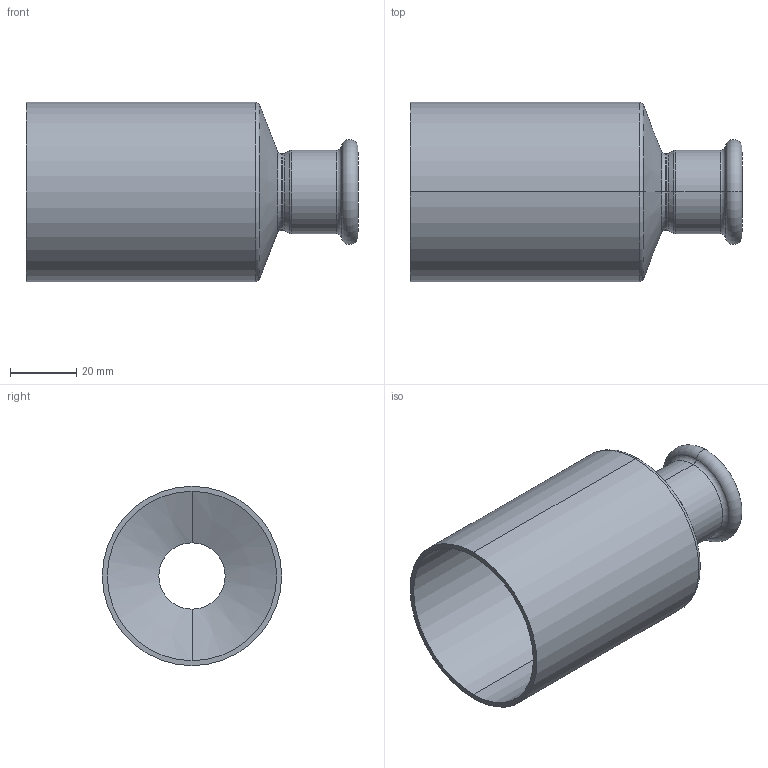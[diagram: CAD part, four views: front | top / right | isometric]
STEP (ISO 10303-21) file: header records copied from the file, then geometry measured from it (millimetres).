
FILE_DESCRIPTION (( 'STEP AP214' ), '1' );
FILE_NAME ('R54220B.STEP', '2025-08-18T00:12:26', ( '' ), ( '' ), 'SwSTEP 2.0', 'SolidWorks 2020', '' );
FILE_SCHEMA (( 'AUTOMOTIVE_DESIGN' ));
Length unit declared in the file: millimetre
Products named in the file (1): R54220B
Bounding box: 100 x 54 x 54 mm (x, y, z)
Volume: 23745 mm3; surface area: 31519.1 mm2
Topology: 1 solids, 1 shells, 43 faces, 86 edges, 46 vertices
Faces by surface type: torus 16, cylinder 14, cone 10, plane 3
Entity records: 1192 total; most frequent: DIRECTION 236, CARTESIAN_POINT 176, ORIENTED_EDGE 172, AXIS2_PLACEMENT_3D 106, EDGE_CURVE 86, CIRCLE 62, EDGE_LOOP 46, VERTEX_POINT 46
